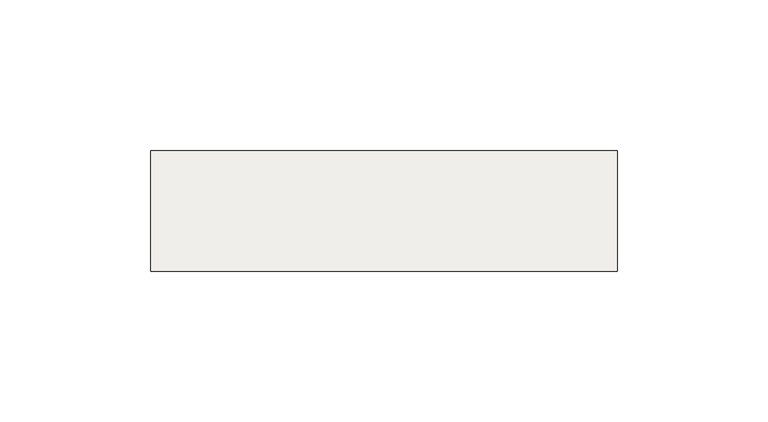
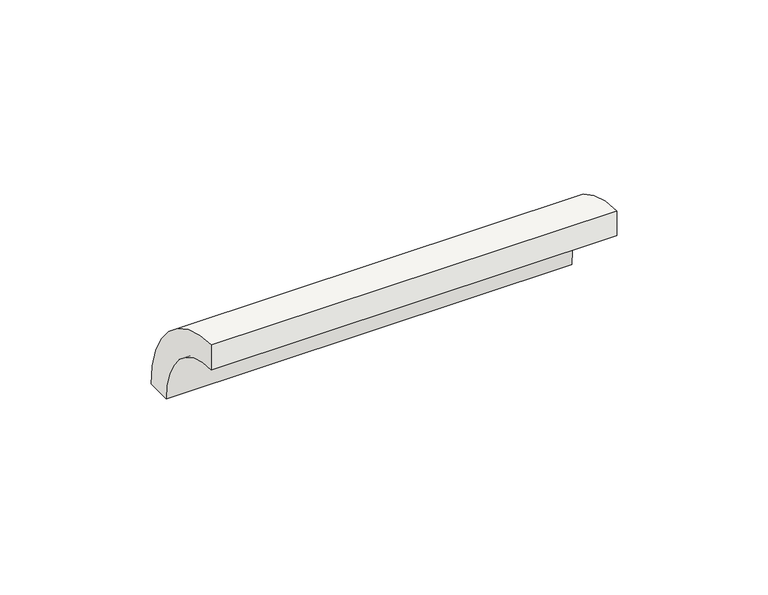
"""IFC4 building model written with IfcOpenShell, lengths in millimetres: slab geometry, ROSA GRES_138 : Pieza 138_Aqua_Plomo_Anti-Slip."""

from ifc_helpers import new_model, si_unit, point, frame, frame_2d, origin, origin_2d, place, context, project, spatial, polyline, circle_curve, trimmed, segment, composite_curve, outline, extrude, source, transform, mapped, element, save


def slab_c2029d90(model_context):
    return source(origin(), model_context, "Body", "SweptSolid", [
        extrude(outline(composite_curve([segment(trimmed(circle_curve(origin_2d(), 40.0), [point((0.0, 40.0))], [point((40.0, 0.0))], False, "CARTESIAN"), True, "CONTINUOUS"), segment(polyline([(40.0, 0.0), (30.0265886, 0.0)]), True, "CONTINUOUS"), segment(trimmed(circle_curve(frame_2d((0.0044453, 0.0044453)), 30.0221435), [point((30.0265886, 0.0))], [point((0.0, 30.0265886))], True, "CARTESIAN"), True, "CONTINUOUS"), segment(polyline([(0.0, 30.0265886), (0.0, 40.0)]), True, "CONTINUOUS")], self_intersect=False)), frame((0.0, 0.0, 0.0), z_axis=(1.0, 0.0, 0.0), x_axis=(0.0, 1.0, 0.0)), (0.0, 0.0, 1.0), 155.0),
    ])


if __name__ == "__main__":
    model = new_model("IFC4")
    model_context = context("Model", 3, world=origin())
    ifc_project = project(units=[si_unit("LENGTHUNIT", "METRE", prefix="MILLI")], contexts=[model_context])
    site = spatial("IfcSite", under=ifc_project)
    building = spatial("IfcBuilding", under=site)
    placement = place(None, origin())
    slab_shape = slab_c2029d90(model_context)
    element("IfcSlab", 1, ObjectType="ROSA GRES_138 : Pieza 138_Aqua_Plomo_Anti-Slip", at=placement, inside=building, context=model_context, shape_type="MappedRepresentation", body=[
        mapped(slab_shape, transform((0.0, 0.0, 0.0), x_axis=(1.0, 0.0, 0.0), y_axis=(0.0, 1.0, 0.0), z_axis=(0.0, 0.0, 1.0))),
    ])
    save(model, "model.ifc")
